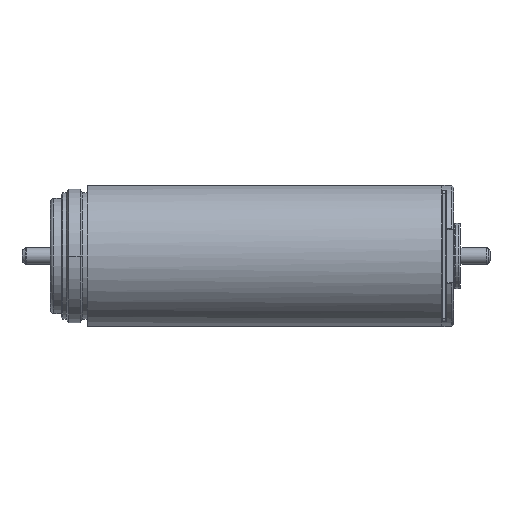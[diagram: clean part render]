
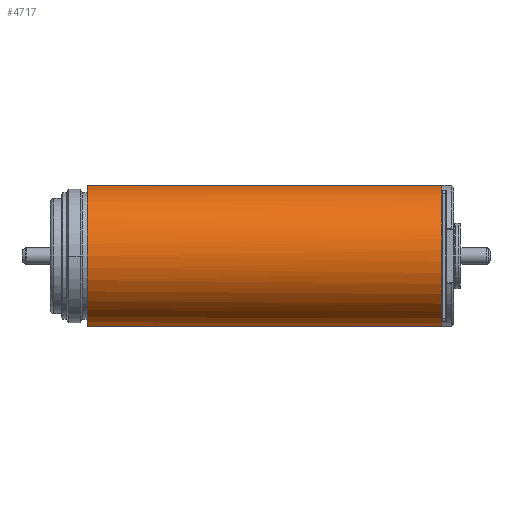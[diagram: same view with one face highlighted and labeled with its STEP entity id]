
A CAD part, front view. The second image highlights one B-rep face of the part: STEP entity #4717.
In plain terms, the highlighted cylindrical face has radius 6.45 mm (diameter 12.9 mm), a partial arc.
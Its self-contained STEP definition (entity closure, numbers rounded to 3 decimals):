
#297=CARTESIAN_POINT('',(34.7,0.,0.));
#298=DIRECTION('',(1.,0.,0.));
#299=DIRECTION('',(0.,-0.919,0.394));
#300=AXIS2_PLACEMENT_3D('',#297,#298,#299);
#368=CARTESIAN_POINT('',(34.7,0.,0.));
#369=DIRECTION('',(1.,0.,0.));
#370=DIRECTION('',(0.,0.,1.));
#371=AXIS2_PLACEMENT_3D('',#368,#369,#370);
#376=CARTESIAN_POINT('',(34.7,0.,0.));
#377=DIRECTION('',(1.,0.,0.));
#378=DIRECTION('',(0.,-0.919,-0.394));
#379=AXIS2_PLACEMENT_3D('',#376,#377,#378);
#384=DIRECTION('',(-1.,0.,0.));
#385=VECTOR('',#384,32.35);
#386=CARTESIAN_POINT('',(34.7,0.,-6.45));
#387=LINE('',#386,#385);
#391=DIRECTION('',(1.,0.,0.));
#392=VECTOR('',#391,32.35);
#393=CARTESIAN_POINT('',(2.35,0.,6.45));
#394=LINE('',#393,#392);
#406=CARTESIAN_POINT('',(2.35,0.,0.));
#407=DIRECTION('',(1.,0.,0.));
#408=DIRECTION('',(0.,0.,1.));
#409=AXIS2_PLACEMENT_3D('',#406,#407,#408);
#3955=CARTESIAN_POINT('',(2.35,0.,-6.45));
#3956=CARTESIAN_POINT('',(2.35,0.,6.45));
#3957=VERTEX_POINT('',#3955);
#3958=VERTEX_POINT('',#3956);
#4245=CARTESIAN_POINT('',(34.7,0.,6.45));
#4246=CARTESIAN_POINT('',(34.7,-5.929,2.539));
#4247=VERTEX_POINT('',#4245);
#4248=VERTEX_POINT('',#4246);
#4249=CARTESIAN_POINT('',(34.7,-5.929,-2.539));
#4250=CARTESIAN_POINT('',(34.7,0.,-6.45));
#4251=VERTEX_POINT('',#4249);
#4252=VERTEX_POINT('',#4250);
#4703=CARTESIAN_POINT('',(2.9,0.,0.));
#4704=DIRECTION('',(1.,0.,0.));
#4705=DIRECTION('',(0.,0.,-1.));
#4706=AXIS2_PLACEMENT_3D('',#4703,#4704,#4705);
#4707=CYLINDRICAL_SURFACE('',#4706,6.45);
#4708=ORIENTED_EDGE('',*,*,#4694,.T.);
#4709=ORIENTED_EDGE('',*,*,#4633,.T.);
#4710=ORIENTED_EDGE('',*,*,#4687,.T.);
#4711=ORIENTED_EDGE('',*,*,#4685,.T.);
#4713=ORIENTED_EDGE('',*,*,#4712,.F.);
#4714=ORIENTED_EDGE('',*,*,#4696,.T.);
#4715=EDGE_LOOP('',(#4708,#4709,#4710,#4711,#4713,#4714));
#4716=FACE_OUTER_BOUND('',#4715,.F.);
#4717=ADVANCED_FACE('',(#4716),#4707,.T.);
#301=CIRCLE('',#300,6.45);
#372=CIRCLE('',#371,6.45);
#380=CIRCLE('',#379,6.45);
#410=CIRCLE('',#409,6.45);
#4633=EDGE_CURVE('',#4248,#4251,#301,.T.);
#4685=EDGE_CURVE('',#4252,#3957,#387,.T.);
#4687=EDGE_CURVE('',#4251,#4252,#380,.T.);
#4694=EDGE_CURVE('',#4247,#4248,#372,.T.);
#4696=EDGE_CURVE('',#3958,#4247,#394,.T.);
#4712=EDGE_CURVE('',#3958,#3957,#410,.T.);
